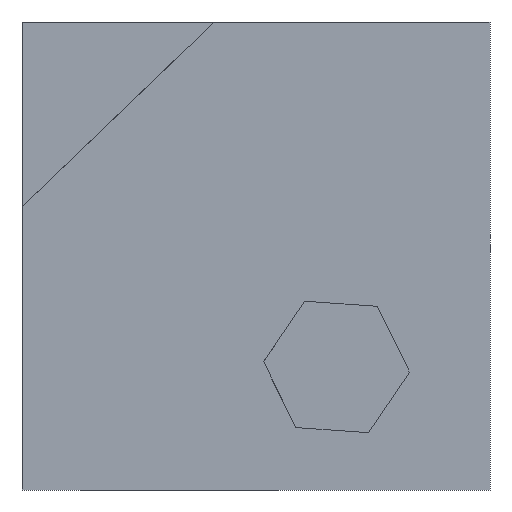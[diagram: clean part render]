
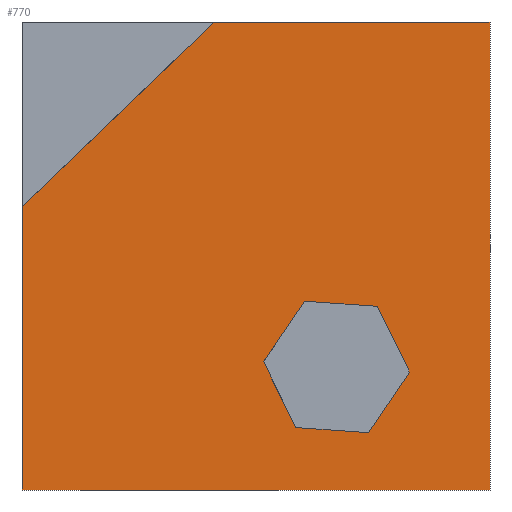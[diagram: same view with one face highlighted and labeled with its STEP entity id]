
A CAD part, front view. The second image highlights one B-rep face of the part: STEP entity #770.
In plain terms, the highlighted planar face has unit normal (0, -1, 0).
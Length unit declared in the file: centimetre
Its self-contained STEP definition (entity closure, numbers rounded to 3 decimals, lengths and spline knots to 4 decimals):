
#4 = DIRECTION ( 'NONE',  ( 0.438, 0., -0.899 ) ) ;
#9 = CARTESIAN_POINT ( 'NONE',  ( 759.4555, 0., 392.5226 ) ) ;
#20 = LINE ( 'NONE', #814, #673 ) ;
#35 = VECTOR ( 'NONE', #822, 100. ) ;
#46 = ORIENTED_EDGE ( 'NONE', *, *, #333, .F. ) ;
#49 = ORIENTED_EDGE ( 'NONE', *, *, #859, .T. ) ;
#59 = CARTESIAN_POINT ( 'NONE',  ( 0., 0., 1000. ) ) ;
#60 = CARTESIAN_POINT ( 'NONE',  ( 1000., 0., 1000. ) ) ;
#77 = CARTESIAN_POINT ( 'NONE',  ( 827.9496, 0., 252.0927 ) ) ;
#97 = LINE ( 'NONE', #888, #709 ) ;
#110 = EDGE_CURVE ( 'NONE', #935, #942, #913, .T. ) ;
#118 = VERTEX_POINT ( 'NONE', #122 ) ;
#122 = CARTESIAN_POINT ( 'NONE',  ( 603.5926, 0., 403.4199 ) ) ;
#126 = LINE ( 'NONE', #77, #319 ) ;
#130 = VERTEX_POINT ( 'NONE', #184 ) ;
#137 = VERTEX_POINT ( 'NONE', #699 ) ;
#148 = VECTOR ( 'NONE', #4, 100. ) ;
#161 = DIRECTION ( 'NONE',  ( 0., 0., -1. ) ) ;
#163 = EDGE_LOOP ( 'NONE', ( #566, #351, #642, #49, #259 ) ) ;
#165 = LINE ( 'NONE', #737, #35 ) ;
#180 = ORIENTED_EDGE ( 'NONE', *, *, #689, .F. ) ;
#184 = CARTESIAN_POINT ( 'NONE',  ( 1000., 0., 0. ) ) ;
#187 = ORIENTED_EDGE ( 'NONE', *, *, #393, .F. ) ;
#200 = CARTESIAN_POINT ( 'NONE',  ( 0., 0., 0. ) ) ;
#206 = CARTESIAN_POINT ( 'NONE',  ( 516.2238, 0., 273.8873 ) ) ;
#212 = VECTOR ( 'NONE', #437, 100. ) ;
#248 = CARTESIAN_POINT ( 'NONE',  ( 1000., 0., 1000. ) ) ;
#250 = EDGE_CURVE ( 'NONE', #137, #935, #569, .T. ) ;
#259 = ORIENTED_EDGE ( 'NONE', *, *, #823, .F. ) ;
#268 = EDGE_LOOP ( 'NONE', ( #187, #180, #46, #416, #774, #658 ) ) ;
#280 = VERTEX_POINT ( 'NONE', #60 ) ;
#306 = DIRECTION ( 'NONE',  ( -0.998, 0., 0.07 ) ) ;
#319 = VECTOR ( 'NONE', #708, 100. ) ;
#333 = EDGE_CURVE ( 'NONE', #942, #941, #165, .T. ) ;
#334 = CARTESIAN_POINT ( 'NONE',  ( 584.7179, 0., 133.4575 ) ) ;
#344 = CARTESIAN_POINT ( 'NONE',  ( 0., 0., 605.9478 ) ) ;
#351 = ORIENTED_EDGE ( 'NONE', *, *, #541, .F. ) ;
#361 = VERTEX_POINT ( 'NONE', #9 ) ;
#366 = CARTESIAN_POINT ( 'NONE',  ( 584.7179, 0., 133.4575 ) ) ;
#371 = LINE ( 'NONE', #59, #212 ) ;
#388 = LINE ( 'NONE', #248, #944 ) ;
#393 = EDGE_CURVE ( 'NONE', #361, #118, #97, .T. ) ;
#416 = ORIENTED_EDGE ( 'NONE', *, *, #110, .F. ) ;
#434 = CARTESIAN_POINT ( 'NONE',  ( 0., 0., 1000. ) ) ;
#437 = DIRECTION ( 'NONE',  ( 0., 0., -1. ) ) ;
#471 = CARTESIAN_POINT ( 'NONE',  ( 0., 0., 1000. ) ) ;
#476 = CARTESIAN_POINT ( 'NONE',  ( 603.5926, 0., 403.4199 ) ) ;
#490 = DIRECTION ( 'NONE',  ( 0.998, 0., -0.07 ) ) ;
#496 = PLANE ( 'NONE',  #684 ) ;
#519 = EDGE_CURVE ( 'NONE', #934, #280, #555, .T. ) ;
#531 = DIRECTION ( 'NONE',  ( 1., 0., 0. ) ) ;
#541 = EDGE_CURVE ( 'NONE', #598, #934, #630, .T. ) ;
#555 = LINE ( 'NONE', #471, #606 ) ;
#556 = VECTOR ( 'NONE', #829, 100. ) ;
#565 = DIRECTION ( 'NONE',  ( -0.559, 0., -0.829 ) ) ;
#566 = ORIENTED_EDGE ( 'NONE', *, *, #519, .F. ) ;
#568 = FACE_OUTER_BOUND ( 'NONE', #163, .T. ) ;
#569 = LINE ( 'NONE', #206, #148 ) ;
#598 = VERTEX_POINT ( 'NONE', #837 ) ;
#606 = VECTOR ( 'NONE', #617, 100. ) ;
#617 = DIRECTION ( 'NONE',  ( 1., 0., 0. ) ) ;
#630 = LINE ( 'NONE', #344, #556 ) ;
#633 = VECTOR ( 'NONE', #565, 100. ) ;
#642 = ORIENTED_EDGE ( 'NONE', *, *, #753, .T. ) ;
#650 = VECTOR ( 'NONE', #490, 100. ) ;
#658 = ORIENTED_EDGE ( 'NONE', *, *, #917, .F. ) ;
#668 = VERTEX_POINT ( 'NONE', #200 ) ;
#673 = VECTOR ( 'NONE', #531, 100. ) ;
#684 = AXIS2_PLACEMENT_3D ( 'NONE', #434, #850, #873 ) ;
#689 = EDGE_CURVE ( 'NONE', #941, #361, #126, .T. ) ;
#699 = CARTESIAN_POINT ( 'NONE',  ( 516.2238, 0., 273.8873 ) ) ;
#708 = DIRECTION ( 'NONE',  ( -0.438, 0., 0.899 ) ) ;
#709 = VECTOR ( 'NONE', #306, 100. ) ;
#722 = CARTESIAN_POINT ( 'NONE',  ( 827.9496, 0., 252.0927 ) ) ;
#725 = FACE_BOUND ( 'NONE', #268, .T. ) ;
#737 = CARTESIAN_POINT ( 'NONE',  ( 740.5808, 0., 122.5602 ) ) ;
#753 = EDGE_CURVE ( 'NONE', #598, #668, #371, .T. ) ;
#770 = ADVANCED_FACE ( 'NONE', ( #725, #568 ), #496, .F. ) ;
#774 = ORIENTED_EDGE ( 'NONE', *, *, #250, .F. ) ;
#785 = CARTESIAN_POINT ( 'NONE',  ( 411.222, 0., 1000. ) ) ;
#790 = CARTESIAN_POINT ( 'NONE',  ( 740.5808, 0., 122.5602 ) ) ;
#814 = CARTESIAN_POINT ( 'NONE',  ( 0., 0., 0. ) ) ;
#822 = DIRECTION ( 'NONE',  ( 0.559, 0., 0.829 ) ) ;
#823 = EDGE_CURVE ( 'NONE', #280, #130, #388, .T. ) ;
#829 = DIRECTION ( 'NONE',  ( 0.722, 0., 0.692 ) ) ;
#836 = LINE ( 'NONE', #476, #633 ) ;
#837 = CARTESIAN_POINT ( 'NONE',  ( 0., 0., 605.9478 ) ) ;
#850 = DIRECTION ( 'NONE',  ( 0., 1., 0. ) ) ;
#859 = EDGE_CURVE ( 'NONE', #668, #130, #20, .T. ) ;
#873 = DIRECTION ( 'NONE',  ( 0., 0., 1. ) ) ;
#888 = CARTESIAN_POINT ( 'NONE',  ( 759.4555, 0., 392.5226 ) ) ;
#913 = LINE ( 'NONE', #334, #650 ) ;
#917 = EDGE_CURVE ( 'NONE', #118, #137, #836, .T. ) ;
#934 = VERTEX_POINT ( 'NONE', #785 ) ;
#935 = VERTEX_POINT ( 'NONE', #366 ) ;
#941 = VERTEX_POINT ( 'NONE', #722 ) ;
#942 = VERTEX_POINT ( 'NONE', #790 ) ;
#944 = VECTOR ( 'NONE', #161, 100. ) ;
